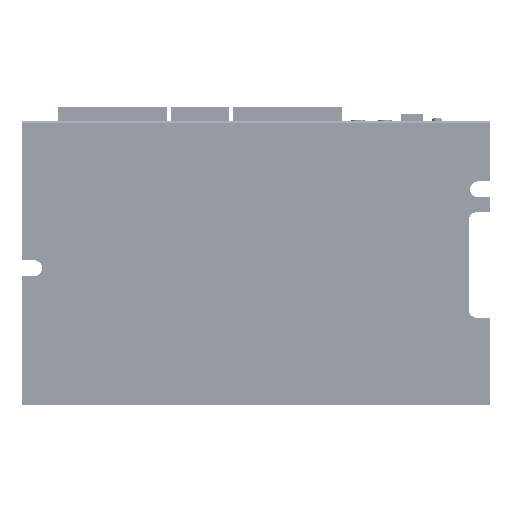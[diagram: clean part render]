
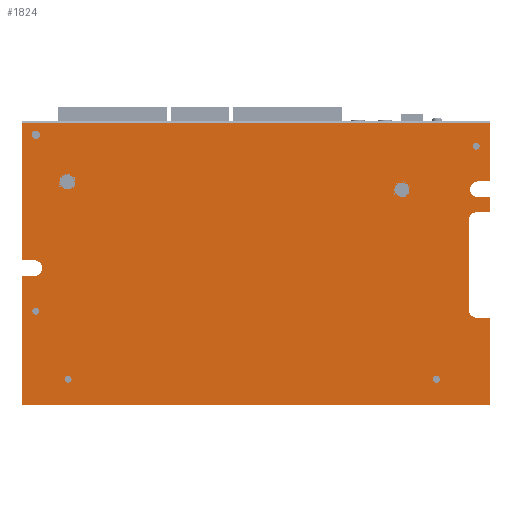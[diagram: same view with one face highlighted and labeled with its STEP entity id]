
A CAD part, front view. The second image highlights one B-rep face of the part: STEP entity #1824.
In plain terms, the highlighted planar face has unit normal (0, -1, 0).
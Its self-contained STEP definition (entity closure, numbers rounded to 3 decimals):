
#66=DIRECTION('',(0.,0.,-1.));
#67=VECTOR('',#66,38.45);
#68=CARTESIAN_POINT('',(-69.5,8.3,-3.8));
#69=LINE('',#68,#67);
#143=DIRECTION('',(0.,0.,-1.));
#144=VECTOR('',#143,40.85);
#145=CARTESIAN_POINT('',(-69.5,8.3,41.75));
#146=LINE('',#145,#144);
#289=DIRECTION('',(0.,0.,-1.));
#290=VECTOR('',#289,17.45);
#291=CARTESIAN_POINT('',(69.5,8.3,41.75));
#292=LINE('',#291,#290);
#373=DIRECTION('',(0.,0.,-1.));
#374=VECTOR('',#373,26.1);
#375=CARTESIAN_POINT('',(69.5,8.3,-16.15));
#376=LINE('',#375,#374);
#387=DIRECTION('',(0.,0.,-1.));
#388=VECTOR('',#387,4.45);
#389=CARTESIAN_POINT('',(69.5,8.3,19.6));
#390=LINE('',#389,#388);
#451=DIRECTION('',(1.,0.,0.));
#452=VECTOR('',#451,139.);
#453=CARTESIAN_POINT('',(-69.5,8.3,-42.25));
#454=LINE('',#453,#452);
#519=CARTESIAN_POINT('',(-55.8,8.3,-34.45));
#520=DIRECTION('',(0.,1.,0.));
#521=DIRECTION('',(1.,0.,0.));
#522=AXIS2_PLACEMENT_3D('',#519,#520,#521);
#527=CARTESIAN_POINT('',(-55.8,8.3,-34.45));
#528=DIRECTION('',(0.,1.,0.));
#529=DIRECTION('',(-1.,0.,0.));
#530=AXIS2_PLACEMENT_3D('',#527,#528,#529);
#535=CARTESIAN_POINT('',(53.6,8.3,-34.45));
#536=DIRECTION('',(0.,1.,0.));
#537=DIRECTION('',(1.,0.,0.));
#538=AXIS2_PLACEMENT_3D('',#535,#536,#537);
#543=CARTESIAN_POINT('',(53.6,8.3,-34.45));
#544=DIRECTION('',(0.,1.,0.));
#545=DIRECTION('',(-1.,0.,0.));
#546=AXIS2_PLACEMENT_3D('',#543,#544,#545);
#551=CARTESIAN_POINT('',(-56.1,8.3,24.15));
#552=DIRECTION('',(0.,1.,0.));
#553=DIRECTION('',(1.,0.,0.));
#554=AXIS2_PLACEMENT_3D('',#551,#552,#553);
#559=CARTESIAN_POINT('',(-56.1,8.3,24.15));
#560=DIRECTION('',(0.,1.,0.));
#561=DIRECTION('',(-1.,0.,0.));
#562=AXIS2_PLACEMENT_3D('',#559,#560,#561);
#567=CARTESIAN_POINT('',(43.3,8.3,21.85));
#568=DIRECTION('',(0.,1.,0.));
#569=DIRECTION('',(1.,0.,0.));
#570=AXIS2_PLACEMENT_3D('',#567,#568,#569);
#575=CARTESIAN_POINT('',(43.3,8.3,21.85));
#576=DIRECTION('',(0.,1.,0.));
#577=DIRECTION('',(-1.,0.,0.));
#578=AXIS2_PLACEMENT_3D('',#575,#576,#577);
#583=DIRECTION('',(-1.,0.,0.));
#584=VECTOR('',#583,3.95);
#585=CARTESIAN_POINT('',(69.5,8.3,-16.15));
#586=LINE('',#585,#584);
#590=DIRECTION('',(1.,0.,0.));
#591=VECTOR('',#590,3.6);
#592=CARTESIAN_POINT('',(-69.5,8.3,-3.8));
#593=LINE('',#592,#591);
#597=CARTESIAN_POINT('',(-65.9,8.3,-1.45));
#598=DIRECTION('',(0.,1.,0.));
#599=DIRECTION('',(0.,0.,1.));
#600=AXIS2_PLACEMENT_3D('',#597,#598,#599);
#605=DIRECTION('',(1.,0.,0.));
#606=VECTOR('',#605,3.6);
#607=CARTESIAN_POINT('',(-69.5,8.3,0.9));
#608=LINE('',#607,#606);
#612=DIRECTION('',(-1.,0.,0.));
#613=VECTOR('',#612,139.);
#614=CARTESIAN_POINT('',(69.5,8.3,41.75));
#615=LINE('',#614,#613);
#619=DIRECTION('',(-1.,0.,0.));
#620=VECTOR('',#619,3.6);
#621=CARTESIAN_POINT('',(69.5,8.3,24.3));
#622=LINE('',#621,#620);
#626=CARTESIAN_POINT('',(65.9,8.3,21.95));
#627=DIRECTION('',(0.,1.,0.));
#628=DIRECTION('',(0.,0.,-1.));
#629=AXIS2_PLACEMENT_3D('',#626,#627,#628);
#634=DIRECTION('',(-1.,0.,0.));
#635=VECTOR('',#634,3.6);
#636=CARTESIAN_POINT('',(69.5,8.3,19.6));
#637=LINE('',#636,#635);
#641=DIRECTION('',(-1.,0.,0.));
#642=VECTOR('',#641,3.95);
#643=CARTESIAN_POINT('',(69.5,8.3,15.15));
#644=LINE('',#643,#642);
#648=CARTESIAN_POINT('',(65.55,8.3,12.8));
#649=DIRECTION('',(0.,1.,0.));
#650=DIRECTION('',(-1.,0.,0.));
#651=AXIS2_PLACEMENT_3D('',#648,#649,#650);
#656=DIRECTION('',(0.,0.,1.));
#657=VECTOR('',#656,26.6);
#658=CARTESIAN_POINT('',(63.2,8.3,-13.8));
#659=LINE('',#658,#657);
#663=CARTESIAN_POINT('',(65.55,8.3,-13.8));
#664=DIRECTION('',(0.,1.,0.));
#665=DIRECTION('',(0.,0.,-1.));
#666=AXIS2_PLACEMENT_3D('',#663,#664,#665);
#671=CARTESIAN_POINT('',(65.4,8.3,34.75));
#672=DIRECTION('',(0.,1.,0.));
#673=DIRECTION('',(1.,0.,0.));
#674=AXIS2_PLACEMENT_3D('',#671,#672,#673);
#679=CARTESIAN_POINT('',(65.4,8.3,34.75));
#680=DIRECTION('',(0.,1.,0.));
#681=DIRECTION('',(-1.,0.,0.));
#682=AXIS2_PLACEMENT_3D('',#679,#680,#681);
#687=CARTESIAN_POINT('',(-65.4,8.3,-14.25));
#688=DIRECTION('',(0.,1.,0.));
#689=DIRECTION('',(1.,0.,0.));
#690=AXIS2_PLACEMENT_3D('',#687,#688,#689);
#695=CARTESIAN_POINT('',(-65.4,8.3,-14.25));
#696=DIRECTION('',(0.,1.,0.));
#697=DIRECTION('',(-1.,0.,0.));
#698=AXIS2_PLACEMENT_3D('',#695,#696,#697);
#703=CARTESIAN_POINT('',(-65.4,8.3,38.15));
#704=DIRECTION('',(0.,1.,0.));
#705=DIRECTION('',(1.,0.,0.));
#706=AXIS2_PLACEMENT_3D('',#703,#704,#705);
#711=CARTESIAN_POINT('',(-65.4,8.3,38.15));
#712=DIRECTION('',(0.,1.,0.));
#713=DIRECTION('',(-1.,0.,0.));
#714=AXIS2_PLACEMENT_3D('',#711,#712,#713);
#1269=CARTESIAN_POINT('',(-54.775,8.3,-34.45));
#1270=VERTEX_POINT('',#1269);
#1271=CARTESIAN_POINT('',(-56.825,8.3,-34.45));
#1272=VERTEX_POINT('',#1271);
#1277=CARTESIAN_POINT('',(54.625,8.3,-34.45));
#1278=VERTEX_POINT('',#1277);
#1279=CARTESIAN_POINT('',(52.575,8.3,-34.45));
#1280=VERTEX_POINT('',#1279);
#1297=CARTESIAN_POINT('',(-69.5,8.3,-42.25));
#1298=CARTESIAN_POINT('',(69.5,8.3,-42.25));
#1299=VERTEX_POINT('',#1297);
#1300=VERTEX_POINT('',#1298);
#1309=CARTESIAN_POINT('',(-69.5,8.3,41.75));
#1311=VERTEX_POINT('',#1309);
#1315=CARTESIAN_POINT('',(69.5,8.3,41.75));
#1316=VERTEX_POINT('',#1315);
#1325=CARTESIAN_POINT('',(-53.975,8.3,24.15));
#1326=CARTESIAN_POINT('',(-58.225,8.3,24.15));
#1327=VERTEX_POINT('',#1325);
#1328=VERTEX_POINT('',#1326);
#1333=CARTESIAN_POINT('',(45.425,8.3,21.85));
#1334=CARTESIAN_POINT('',(41.175,8.3,21.85));
#1335=VERTEX_POINT('',#1333);
#1336=VERTEX_POINT('',#1334);
#1337=CARTESIAN_POINT('',(69.5,8.3,-16.15));
#1339=VERTEX_POINT('',#1337);
#1341=CARTESIAN_POINT('',(69.5,8.3,15.15));
#1343=VERTEX_POINT('',#1341);
#1353=CARTESIAN_POINT('',(65.55,8.3,-16.15));
#1354=VERTEX_POINT('',#1353);
#1355=CARTESIAN_POINT('',(63.2,8.3,-13.8));
#1356=VERTEX_POINT('',#1355);
#1357=CARTESIAN_POINT('',(63.2,8.3,12.8));
#1358=VERTEX_POINT('',#1357);
#1359=CARTESIAN_POINT('',(65.55,8.3,15.15));
#1360=VERTEX_POINT('',#1359);
#1361=CARTESIAN_POINT('',(69.5,8.3,24.3));
#1363=VERTEX_POINT('',#1361);
#1365=CARTESIAN_POINT('',(69.5,8.3,19.6));
#1367=VERTEX_POINT('',#1365);
#1373=CARTESIAN_POINT('',(65.9,8.3,19.6));
#1374=CARTESIAN_POINT('',(65.9,8.3,24.3));
#1375=VERTEX_POINT('',#1373);
#1376=VERTEX_POINT('',#1374);
#1379=CARTESIAN_POINT('',(-69.5,8.3,0.9));
#1380=VERTEX_POINT('',#1379);
#1381=CARTESIAN_POINT('',(-69.5,8.3,-3.8));
#1382=VERTEX_POINT('',#1381);
#1387=CARTESIAN_POINT('',(66.425,8.3,34.75));
#1388=CARTESIAN_POINT('',(64.375,8.3,34.75));
#1389=VERTEX_POINT('',#1387);
#1390=VERTEX_POINT('',#1388);
#1395=CARTESIAN_POINT('',(-64.375,8.3,-14.25));
#1396=CARTESIAN_POINT('',(-66.425,8.3,-14.25));
#1397=VERTEX_POINT('',#1395);
#1398=VERTEX_POINT('',#1396);
#1399=CARTESIAN_POINT('',(-64.15,8.3,38.15));
#1400=CARTESIAN_POINT('',(-66.65,8.3,38.15));
#1401=VERTEX_POINT('',#1399);
#1402=VERTEX_POINT('',#1400);
#1439=CARTESIAN_POINT('',(-65.9,8.3,-3.8));
#1440=VERTEX_POINT('',#1439);
#1441=CARTESIAN_POINT('',(-65.9,8.3,0.9));
#1442=VERTEX_POINT('',#1441);
#1745=CARTESIAN_POINT('',(-69.5,8.3,42.25));
#1746=DIRECTION('',(0.,-1.,0.));
#1747=DIRECTION('',(0.,0.,-1.));
#1748=AXIS2_PLACEMENT_3D('',#1745,#1746,#1747);
#1749=PLANE('',#1748);
#1751=ORIENTED_EDGE('',*,*,#1750,.F.);
#1752=ORIENTED_EDGE('',*,*,#1636,.T.);
#1753=ORIENTED_EDGE('',*,*,#1698,.F.);
#1754=ORIENTED_EDGE('',*,*,#1470,.F.);
#1756=ORIENTED_EDGE('',*,*,#1755,.T.);
#1758=ORIENTED_EDGE('',*,*,#1757,.F.);
#1760=ORIENTED_EDGE('',*,*,#1759,.F.);
#1761=ORIENTED_EDGE('',*,*,#1502,.F.);
#1763=ORIENTED_EDGE('',*,*,#1762,.F.);
#1764=ORIENTED_EDGE('',*,*,#1603,.T.);
#1766=ORIENTED_EDGE('',*,*,#1765,.T.);
#1768=ORIENTED_EDGE('',*,*,#1767,.F.);
#1770=ORIENTED_EDGE('',*,*,#1769,.F.);
#1771=ORIENTED_EDGE('',*,*,#1648,.T.);
#1773=ORIENTED_EDGE('',*,*,#1772,.T.);
#1775=ORIENTED_EDGE('',*,*,#1774,.F.);
#1777=ORIENTED_EDGE('',*,*,#1776,.F.);
#1779=ORIENTED_EDGE('',*,*,#1778,.F.);
#1780=EDGE_LOOP('',(#1751,#1752,#1753,#1754,#1756,#1758,#1760,#1761,#1763,#1764,
#1766,#1768,#1770,#1771,#1773,#1775,#1777,#1779));
#1781=FACE_OUTER_BOUND('',#1780,.F.);
#1783=ORIENTED_EDGE('',*,*,#1782,.F.);
#1785=ORIENTED_EDGE('',*,*,#1784,.F.);
#1786=EDGE_LOOP('',(#1783,#1785));
#1787=FACE_BOUND('',#1786,.F.);
#1789=ORIENTED_EDGE('',*,*,#1788,.F.);
#1791=ORIENTED_EDGE('',*,*,#1790,.F.);
#1792=EDGE_LOOP('',(#1789,#1791));
#1793=FACE_BOUND('',#1792,.F.);
#1795=ORIENTED_EDGE('',*,*,#1794,.F.);
#1797=ORIENTED_EDGE('',*,*,#1796,.F.);
#1798=EDGE_LOOP('',(#1795,#1797));
#1799=FACE_BOUND('',#1798,.F.);
#1801=ORIENTED_EDGE('',*,*,#1800,.F.);
#1803=ORIENTED_EDGE('',*,*,#1802,.F.);
#1804=EDGE_LOOP('',(#1801,#1803));
#1805=FACE_BOUND('',#1804,.F.);
#1807=ORIENTED_EDGE('',*,*,#1806,.F.);
#1809=ORIENTED_EDGE('',*,*,#1808,.F.);
#1810=EDGE_LOOP('',(#1807,#1809));
#1811=FACE_BOUND('',#1810,.F.);
#1813=ORIENTED_EDGE('',*,*,#1812,.F.);
#1815=ORIENTED_EDGE('',*,*,#1814,.F.);
#1816=EDGE_LOOP('',(#1813,#1815));
#1817=FACE_BOUND('',#1816,.F.);
#1819=ORIENTED_EDGE('',*,*,#1818,.F.);
#1821=ORIENTED_EDGE('',*,*,#1820,.F.);
#1822=EDGE_LOOP('',(#1819,#1821));
#1823=FACE_BOUND('',#1822,.F.);
#523=CIRCLE('',#522,1.025);
#531=CIRCLE('',#530,1.025);
#539=CIRCLE('',#538,1.025);
#547=CIRCLE('',#546,1.025);
#555=CIRCLE('',#554,2.125);
#563=CIRCLE('',#562,2.125);
#571=CIRCLE('',#570,2.125);
#579=CIRCLE('',#578,2.125);
#601=CIRCLE('',#600,2.35);
#630=CIRCLE('',#629,2.35);
#652=CIRCLE('',#651,2.35);
#667=CIRCLE('',#666,2.35);
#675=CIRCLE('',#674,1.025);
#683=CIRCLE('',#682,1.025);
#691=CIRCLE('',#690,1.025);
#699=CIRCLE('',#698,1.025);
#707=CIRCLE('',#706,1.25);
#715=CIRCLE('',#714,1.25);
#1470=EDGE_CURVE('',#1382,#1299,#69,.T.);
#1502=EDGE_CURVE('',#1311,#1380,#146,.T.);
#1603=EDGE_CURVE('',#1316,#1363,#292,.T.);
#1636=EDGE_CURVE('',#1339,#1300,#376,.T.);
#1648=EDGE_CURVE('',#1367,#1343,#390,.T.);
#1698=EDGE_CURVE('',#1299,#1300,#454,.T.);
#1750=EDGE_CURVE('',#1339,#1354,#586,.T.);
#1755=EDGE_CURVE('',#1382,#1440,#593,.T.);
#1757=EDGE_CURVE('',#1442,#1440,#601,.T.);
#1759=EDGE_CURVE('',#1380,#1442,#608,.T.);
#1762=EDGE_CURVE('',#1316,#1311,#615,.T.);
#1765=EDGE_CURVE('',#1363,#1376,#622,.T.);
#1767=EDGE_CURVE('',#1375,#1376,#630,.T.);
#1769=EDGE_CURVE('',#1367,#1375,#637,.T.);
#1772=EDGE_CURVE('',#1343,#1360,#644,.T.);
#1774=EDGE_CURVE('',#1358,#1360,#652,.T.);
#1776=EDGE_CURVE('',#1356,#1358,#659,.T.);
#1778=EDGE_CURVE('',#1354,#1356,#667,.T.);
#1782=EDGE_CURVE('',#1278,#1280,#539,.T.);
#1784=EDGE_CURVE('',#1280,#1278,#547,.T.);
#1788=EDGE_CURVE('',#1327,#1328,#555,.T.);
#1790=EDGE_CURVE('',#1328,#1327,#563,.T.);
#1794=EDGE_CURVE('',#1335,#1336,#571,.T.);
#1796=EDGE_CURVE('',#1336,#1335,#579,.T.);
#1800=EDGE_CURVE('',#1270,#1272,#523,.T.);
#1802=EDGE_CURVE('',#1272,#1270,#531,.T.);
#1806=EDGE_CURVE('',#1389,#1390,#675,.T.);
#1808=EDGE_CURVE('',#1390,#1389,#683,.T.);
#1812=EDGE_CURVE('',#1397,#1398,#691,.T.);
#1814=EDGE_CURVE('',#1398,#1397,#699,.T.);
#1818=EDGE_CURVE('',#1401,#1402,#707,.T.);
#1820=EDGE_CURVE('',#1402,#1401,#715,.T.);
#1824=ADVANCED_FACE('',(#1781,#1787,#1793,#1799,#1805,#1811,#1817,#1823),#1749,
.T.);
